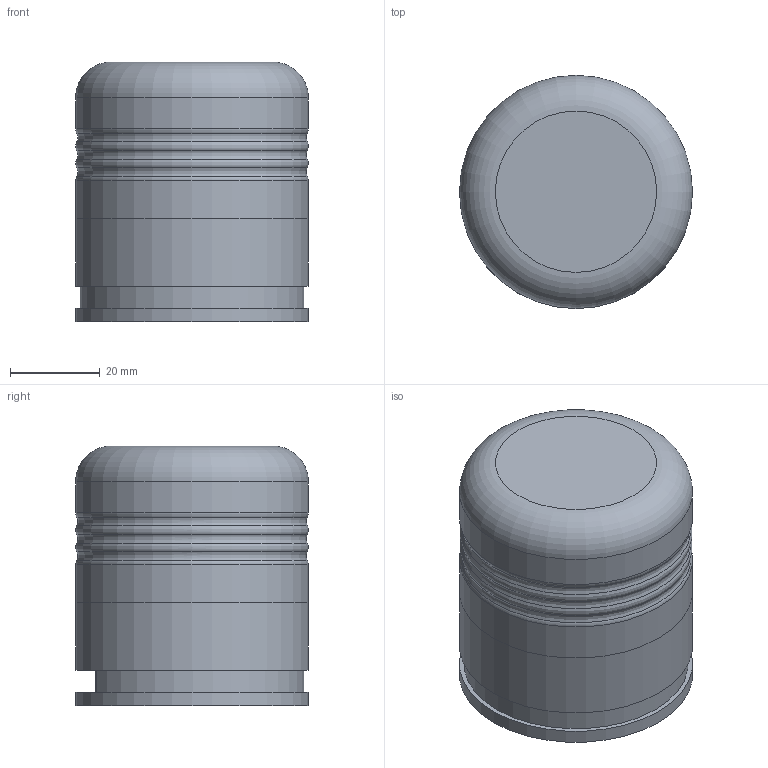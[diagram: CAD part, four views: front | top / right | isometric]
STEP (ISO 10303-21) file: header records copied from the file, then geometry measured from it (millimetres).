
FILE_DESCRIPTION(('STEP AP214'), '1');
FILE_NAME('SL52B-220-RYG', '', ('UNSPECIFIED'), ('UNSPECIFIED'), 'C3D Converter', 'C3D Toolkit', '');
FILE_SCHEMA(('AUTOMOTIVE_DESIGN { 1 0 10303 214 3 1 1}'));
Length unit declared in the file: millimetre
Assembly tree (2 placements, depth 2):
  (unnamed)
    (unnamed)
    (unnamed)
Bounding box: 52 x 52 x 58 mm (x, y, z)
Volume: 54920.3 mm3; surface area: 24556.1 mm2
Topology: 2 solids, 2 shells, 46 faces, 87 edges, 52 vertices
Faces by surface type: cylinder 16, torus 16, plane 14
Full cylindrical faces by diameter (mm): 4.134 x2, 10 x1, 50 x4, 52 x4
Entity records: 1550 total; most frequent: DIRECTION 206, CARTESIAN_POINT 161, ORIENTED_EDGE 120, AXIS2_PLACEMENT_3D 97, EDGE_LOOP 82, EDGE_CURVE 60, FACE_OUTER_BOUND 54, VERTEX_POINT 52
